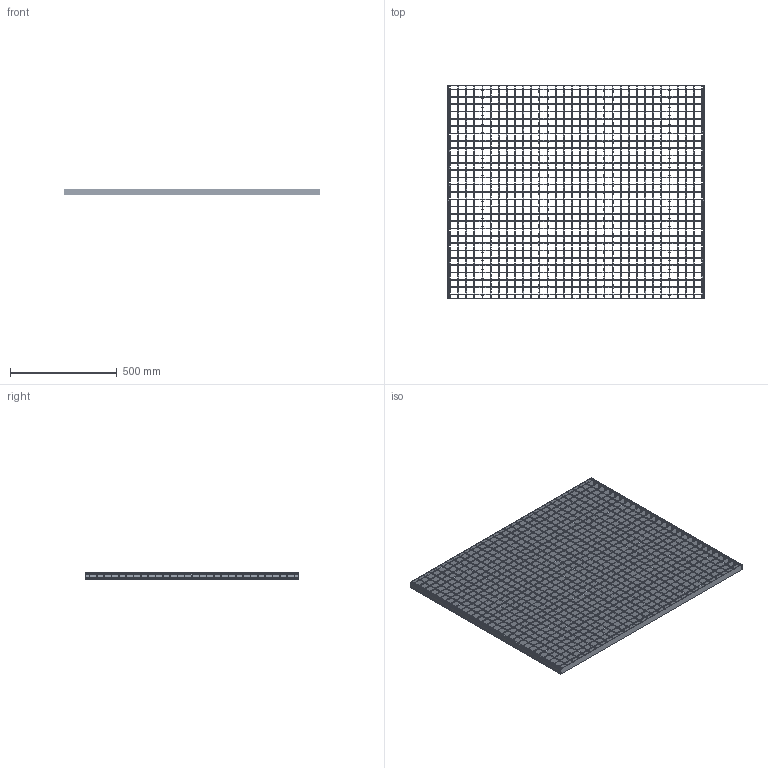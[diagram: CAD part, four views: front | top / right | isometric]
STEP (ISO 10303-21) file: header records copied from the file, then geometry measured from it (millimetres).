
FILE_DESCRIPTION(/* description */ ('STEP AP242','CAx-IF Rec.Pracs.---Representation and Presentation of Product Manufacturing Information (PMI)---4.0---2014-10-13','CAx-IF Rec.Pracs.---3D Tessellated Geometry---0.4---2014-09-14','2;1'),/* implementation_level */ '2;1');
FILE_NAME(/* name */ 'Lichtgitter_Forge_welded_gratings SP 330-34_38-3-1-1-1200-1000_(350_1_0)',/* time_stamp */ '2026-04-23T13:49:33+02:00',/* author */ ('License CC BY-ND 4.0'),/* organization */ ('CADENAS'),/* preprocessor_version */ 'ST-DEVELOPER v20',/* originating_system */ 'PARTsolutions',/* authorisation */ ' ');
FILE_SCHEMA (('AP242_MANAGED_MODEL_BASED_3D_ENGINEERING_MIM_LF { 1 0 10303 442 1 1 4 }'));
Length unit declared in the file: millimetre
Products named in the file (5): Lichtgitter_Forge_welded_gratings SP 330-34/38-3-1-1-1200-1000_(350_1
_0); Lichtgitter SP 330-34/38-3_(350_1_2_1200_1000_Schweisspressroste)_VER
TICAL_SIDES; Lichtgitter SP 330-34/38-3_(350_1_2_1200_1000_Schweisspressroste)_HOR
IZONTAL_C; Lichtgitter SP 330-34/38-3_(350_1_2_1200_1000_Schweisspressroste)_HOR
IZONTAL_SIDES; Lichtgitter SP 3.46530-34/38-3.465_(350_1_2_1200_1000_Schweisspressro
ste)_VERTICAL_C
Assembly tree (65 placements, depth 2):
  Lichtgitter_Forge_welded_gratings SP 330-34/38-3-1-1-1200-1000_(350_1
_0)
    Lichtgitter SP 330-34/38-3_(350_1_2_1200_1000_Schweisspressroste)_VER
TICAL_SIDES  x2
    Lichtgitter SP 330-34/38-3_(350_1_2_1200_1000_Schweisspressroste)_HOR
IZONTAL_C  x29
    Lichtgitter SP 330-34/38-3_(350_1_2_1200_1000_Schweisspressroste)_HOR
IZONTAL_SIDES  x2
    Lichtgitter SP 3.46530-34/38-3.465_(350_1_2_1200_1000_Schweisspressro
ste)_VERTICAL_C  x32
Bounding box: 1200 x 1000 x 30.72 mm (x, y, z)
Volume: 3803843.4 mm3; surface area: 2996047.7 mm2
Topology: 65 solids, 65 shells, 8542 faces, 18964 edges, 10552 vertices
Faces by surface type: bspline 6400, plane 1198, cylinder 944
Entity records: 9315 total; most frequent: CARTESIAN_POINT 2822, ORIENTED_EDGE 1336, DIRECTION 1068, EDGE_CURVE 668, LINE 584, VECTOR 584, VERTEX_POINT 380, EDGE_LOOP 296
